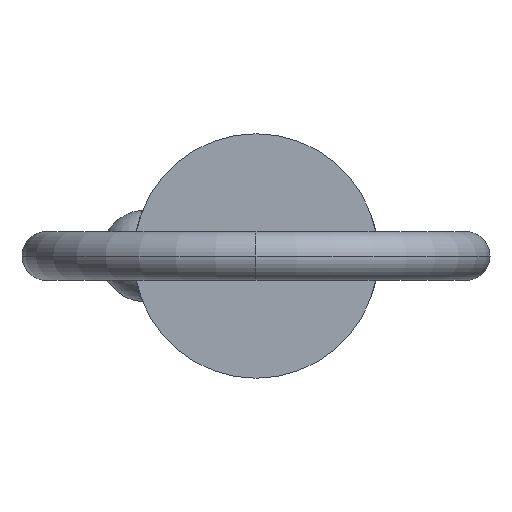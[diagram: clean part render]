
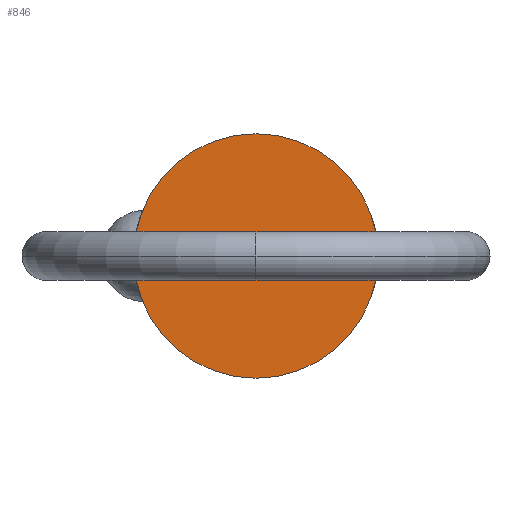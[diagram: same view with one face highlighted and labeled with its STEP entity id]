
A CAD part, left-side view. The second image highlights one B-rep face of the part: STEP entity #846.
In plain terms, the highlighted planar face has unit normal (-1, 0, 0).
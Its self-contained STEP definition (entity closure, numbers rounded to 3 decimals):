
#100 = VERTEX_POINT ( 'NONE', #231 ) ;
#117 = DIRECTION ( 'NONE',  ( 1., 0., 0. ) ) ;
#132 = DIRECTION ( 'NONE',  ( 0., 0., -1. ) ) ;
#158 = AXIS2_PLACEMENT_3D ( 'NONE', #915, #484, #211 ) ;
#178 = CARTESIAN_POINT ( 'NONE',  ( 0., 0., 0. ) ) ;
#188 = EDGE_CURVE ( 'NONE', #100, #443, #197, .T. ) ;
#197 = CIRCLE ( 'NONE', #903, 11.115 ) ;
#211 = DIRECTION ( 'NONE',  ( 0., 0., 1. ) ) ;
#231 = CARTESIAN_POINT ( 'NONE',  ( 0., 0., 11.115 ) ) ;
#284 = PLANE ( 'NONE',  #158 ) ;
#307 = EDGE_LOOP ( 'NONE', ( #794, #876 ) ) ;
#443 = VERTEX_POINT ( 'NONE', #693 ) ;
#451 = CIRCLE ( 'NONE', #568, 11.115 ) ;
#484 = DIRECTION ( 'NONE',  ( -1., 0., 0. ) ) ;
#568 = AXIS2_PLACEMENT_3D ( 'NONE', #178, #666, #596 ) ;
#596 = DIRECTION ( 'NONE',  ( 0., 0., -1. ) ) ;
#666 = DIRECTION ( 'NONE',  ( 1., 0., 0. ) ) ;
#678 = EDGE_CURVE ( 'NONE', #443, #100, #451, .T. ) ;
#693 = CARTESIAN_POINT ( 'NONE',  ( 0., 0., -11.115 ) ) ;
#779 = FACE_OUTER_BOUND ( 'NONE', #307, .T. ) ;
#794 = ORIENTED_EDGE ( 'NONE', *, *, #678, .F. ) ;
#846 = ADVANCED_FACE ( 'NONE', ( #779 ), #284, .T. ) ;
#876 = ORIENTED_EDGE ( 'NONE', *, *, #188, .F. ) ;
#893 = CARTESIAN_POINT ( 'NONE',  ( 0., 0., 0. ) ) ;
#903 = AXIS2_PLACEMENT_3D ( 'NONE', #893, #117, #132 ) ;
#915 = CARTESIAN_POINT ( 'NONE',  ( 0., 0., 0. ) ) ;
